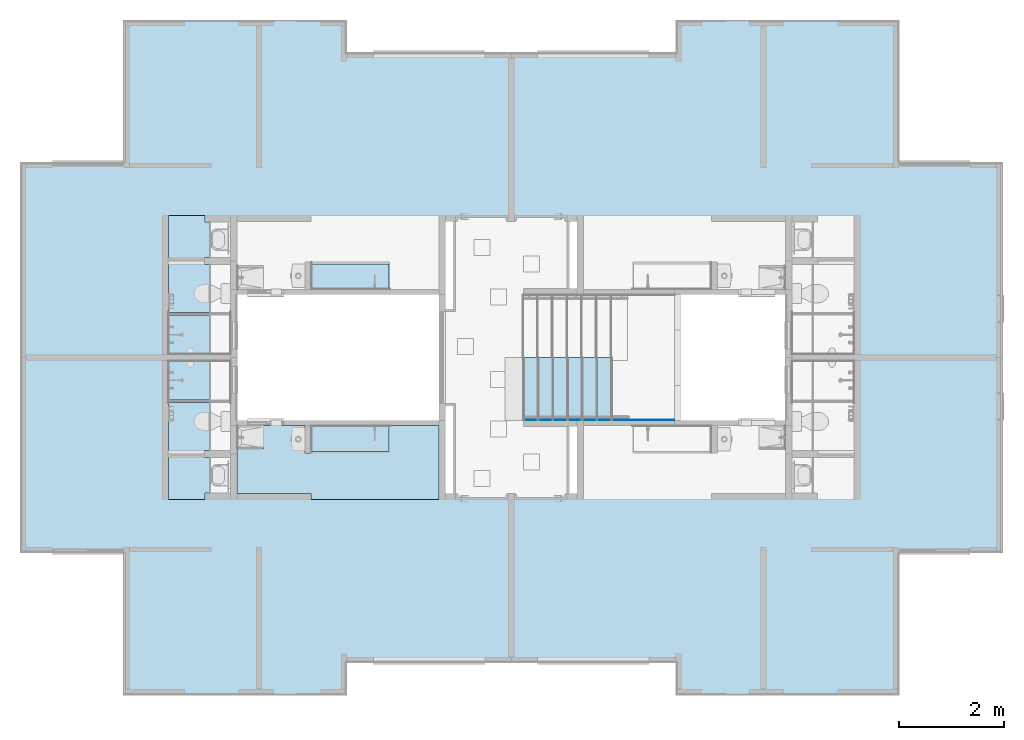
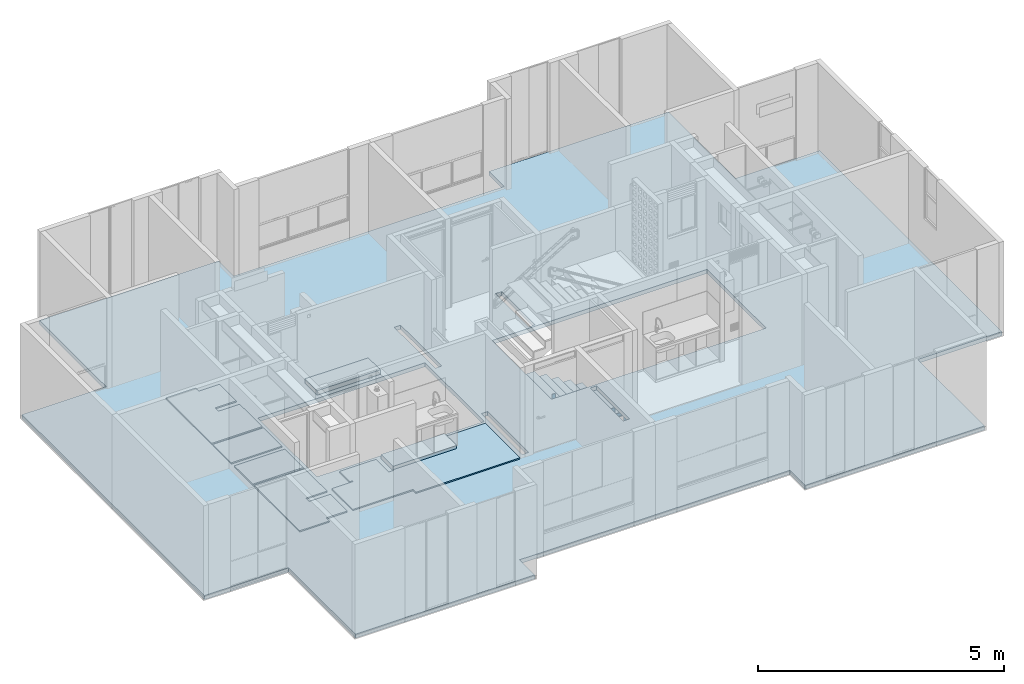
# One storey, part 1 of 48: 13 slabs.
"""IFC4 building model written with IfcOpenShell, lengths in metres."""

from ifc_helpers import new_model, entity, si_unit, converted_unit, derived_unit, direction, frame, origin, place, context, subcontext, project, spatial, indexed_curve, outline, extrude, material, constituent, constituent_set, type_object, element, save


model = new_model("IFC4")

# Units and contexts
model_context = context("Model", 3, precision=1e-05, world=origin(), true_north=direction((6.123031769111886e-17, 1.0)))
body_context = subcontext(model_context, "Body", "Model", "MODEL_VIEW")
ifc_project = project(units=[si_unit("LENGTHUNIT", "METRE"), si_unit("AREAUNIT", "SQUARE_METRE"), si_unit("VOLUMEUNIT", "CUBIC_METRE"), converted_unit("PLANEANGLEUNIT", "DEGREE", entity("IfcRatioMeasure", 0.017453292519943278), si_unit("PLANEANGLEUNIT", "RADIAN"), dimensions=[0, 0, 0, 0, 0, 0, 0]), si_unit("MASSUNIT", "GRAM", prefix="KILO"), derived_unit("MASSDENSITYUNIT", [(si_unit("MASSUNIT", "GRAM", prefix="KILO"), 1), (si_unit("LENGTHUNIT", "METRE"), -3)]), derived_unit("IONCONCENTRATIONUNIT", [(si_unit("MASSUNIT", "GRAM", prefix="KILO"), 1), (si_unit("LENGTHUNIT", "METRE"), -3)]), derived_unit("MOMENTOFINERTIAUNIT", [(si_unit("LENGTHUNIT", "METRE"), 4)]), si_unit("TIMEUNIT", "SECOND"), si_unit("FREQUENCYUNIT", "HERTZ"), si_unit("THERMODYNAMICTEMPERATUREUNIT", "DEGREE_CELSIUS"), derived_unit("THERMALTRANSMITTANCEUNIT", [(si_unit("MASSUNIT", "GRAM", prefix="KILO"), 1), (si_unit("THERMODYNAMICTEMPERATUREUNIT", "KELVIN"), -1), (si_unit("TIMEUNIT", "SECOND"), -3)]), derived_unit("THERMALCONDUCTANCEUNIT", [(si_unit("MASSUNIT", "GRAM", prefix="KILO"), 1), (si_unit("THERMODYNAMICTEMPERATUREUNIT", "KELVIN"), -1), (si_unit("TIMEUNIT", "SECOND"), -3), (si_unit("LENGTHUNIT", "METRE"), 1)]), derived_unit("VOLUMETRICFLOWRATEUNIT", [(si_unit("LENGTHUNIT", "METRE"), 3), (si_unit("TIMEUNIT", "SECOND"), -1)]), derived_unit("MASSFLOWRATEUNIT", [(si_unit("MASSUNIT", "GRAM", prefix="KILO"), 1), (si_unit("TIMEUNIT", "SECOND"), -1)]), derived_unit("ROTATIONALFREQUENCYUNIT", [(si_unit("TIMEUNIT", "SECOND"), -1)]), si_unit("ELECTRICCURRENTUNIT", "AMPERE"), si_unit("ELECTRICVOLTAGEUNIT", "VOLT"), si_unit("POWERUNIT", "WATT"), si_unit("FORCEUNIT", "NEWTON", prefix="KILO"), si_unit("ILLUMINANCEUNIT", "LUX"), si_unit("LUMINOUSFLUXUNIT", "LUMEN"), si_unit("LUMINOUSINTENSITYUNIT", "CANDELA"), derived_unit("USERDEFINED", [(si_unit("MASSUNIT", "GRAM", prefix="KILO"), -1), (si_unit("LENGTHUNIT", "METRE"), -2), (si_unit("TIMEUNIT", "SECOND"), 3), (si_unit("LUMINOUSFLUXUNIT", "LUMEN"), 1)]), derived_unit("USERDEFINED", [(si_unit("MASSUNIT", "GRAM", prefix="KILO"), 1), (si_unit("TIMEUNIT", "SECOND"), -3), (si_unit("LENGTHUNIT", "METRE"), 3), (si_unit("ELECTRICCURRENTUNIT", "AMPERE"), -2)]), derived_unit("SOUNDPOWERUNIT", [(si_unit("MASSUNIT", "GRAM", prefix="KILO"), 1), (si_unit("TIMEUNIT", "SECOND"), -3), (si_unit("LENGTHUNIT", "METRE"), 2)]), derived_unit("SOUNDPRESSUREUNIT", [(si_unit("MASSUNIT", "GRAM", prefix="KILO"), 1), (si_unit("LENGTHUNIT", "METRE"), -1), (si_unit("TIMEUNIT", "SECOND"), -2)]), derived_unit("LINEARVELOCITYUNIT", [(si_unit("LENGTHUNIT", "METRE"), 1), (si_unit("TIMEUNIT", "SECOND"), -1)]), si_unit("PRESSUREUNIT", "PASCAL"), derived_unit("USERDEFINED", [(si_unit("MASSUNIT", "GRAM", prefix="KILO"), 1), (si_unit("LENGTHUNIT", "METRE"), -2), (si_unit("TIMEUNIT", "SECOND"), -2)]), derived_unit("LINEARFORCEUNIT", [(si_unit("MASSUNIT", "GRAM", prefix="KILO"), 1), (si_unit("TIMEUNIT", "SECOND"), -2)]), derived_unit("PLANARFORCEUNIT", [(si_unit("MASSUNIT", "GRAM", prefix="KILO"), 1), (si_unit("LENGTHUNIT", "METRE"), -1), (si_unit("TIMEUNIT", "SECOND"), -2)]), derived_unit("SPECIFICHEATCAPACITYUNIT", [(si_unit("THERMODYNAMICTEMPERATUREUNIT", "KELVIN"), -1), (si_unit("LENGTHUNIT", "METRE"), 2), (si_unit("TIMEUNIT", "SECOND"), -2)]), derived_unit("HEATINGVALUEUNIT", [(si_unit("LENGTHUNIT", "METRE"), 2), (si_unit("TIMEUNIT", "SECOND"), -2)]), derived_unit("VAPORPERMEABILITYUNIT", [(si_unit("LENGTHUNIT", "METRE"), -1), (si_unit("TIMEUNIT", "SECOND"), 1)]), derived_unit("DYNAMICVISCOSITYUNIT", [(si_unit("MASSUNIT", "GRAM", prefix="KILO"), 1), (si_unit("TIMEUNIT", "SECOND"), -1), (si_unit("LENGTHUNIT", "METRE"), -1)]), derived_unit("THERMALEXPANSIONCOEFFICIENTUNIT", [(si_unit("THERMODYNAMICTEMPERATUREUNIT", "KELVIN"), -1)]), derived_unit("MODULUSOFELASTICITYUNIT", [(si_unit("MASSUNIT", "GRAM", prefix="KILO"), 1), (si_unit("LENGTHUNIT", "METRE"), -1), (si_unit("TIMEUNIT", "SECOND"), -2)]), derived_unit("ISOTHERMALMOISTURECAPACITYUNIT", [(si_unit("LENGTHUNIT", "METRE"), 3), (si_unit("MASSUNIT", "GRAM", prefix="KILO"), -1)]), derived_unit("MOISTUREDIFFUSIVITYUNIT", [(si_unit("TIMEUNIT", "SECOND"), -1), (si_unit("LENGTHUNIT", "METRE"), 2)])], contexts=[model_context])

# Site, building, storey
site_placement = place(None, origin())
site = spatial("IfcSite", under=ifc_project, at=site_placement, Name="Default", CompositionType="ELEMENT")
building_placement = place(site_placement, origin())
building = spatial("IfcBuilding", under=site, at=building_placement, CompositionType="ELEMENT")
storey_placement = place(building_placement, frame((0.0, 0.0, 9.40000000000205)))
storey = spatial("IfcBuildingStorey", under=building, at=storey_placement, Name="Nivel 5", CompositionType="ELEMENT", Elevation=9.40000000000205)

# Slabs
ifc_material_1 = material(Name="Ceramica 0.45m x 0.45m gris", Category="Materials")
ifc_constituent_1 = constituent(ifc_material_1, Name="Ceramica 0.45m x 0.45m gris", Category="Materials")
ifc_material_2 = material(Name="Mortero de pega", Category="Materials")
ifc_constituent_2 = constituent(ifc_material_2, Name="Mortero de pega", Category="Materials")
ifc_constituent_set_1 = constituent_set(constituents=[ifc_constituent_1, ifc_constituent_2], Name="Floor:C2030.20 - 0.45 x 0.45 - Enchape cerámico - Mortero de Pega + Cerámica gris")
slab_type_1 = type_object("IfcSlabType", Name="Floor:C2030.20 - 0.45 x 0.45 - Enchape cerámico - Mortero de Pega + Cerámica gris", PredefinedType="FLOOR", material=ifc_constituent_set_1)
slab_1_placement = place(storey_placement, origin())
element("IfcSlab", 1, at=slab_1_placement, inside=storey, type_object=slab_type_1, material=ifc_constituent_set_1, Name="Floor:C2030.20 - 0.45 x 0.45 - Enchape cerámico - Mortero de Pega + Cerámica gris", ObjectType="Floor:C2030.20 - 0.45 x 0.45 - Enchape cerámico - Mortero de Pega + Cerámica gris", PredefinedType="FLOOR", context=body_context, shape_type="SweptSolid", body=[
    extrude(outline(indexed_curve([(-0.592499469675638, -0.3749999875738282), (0.5924994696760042, -0.3749999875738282), (0.5924994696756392, 0.3749999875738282), (-0.5924994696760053, 0.3749999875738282), (-0.592499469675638, -0.3749999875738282)], self_intersect=False)), frame((3.3700005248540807, -5.990000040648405, 0.019999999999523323), z_axis=(0.0, 0.0, 1.0), x_axis=(-1.0, 0.0, 0.0)), (0.0, 0.0, 1.0), 0.009999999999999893),
    extrude(outline(indexed_curve([(-0.1950000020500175, -0.06099936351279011), (-0.19500000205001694, 0.4339995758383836), (-1.109999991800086, 0.43399957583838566), (-1.109999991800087, -0.7509993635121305), (0.7449999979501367, -0.750999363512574), (0.7449999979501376, -0.05600042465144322), (0.6199999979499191, -0.05600042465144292), (0.619999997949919, 0.4339995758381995), (-0.060000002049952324, 0.4339995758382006), (-0.060000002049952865, -0.06099936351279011), (-0.1950000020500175, -0.06099936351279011)], self_intersect=False)), frame((3.5285004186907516, -4.455000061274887, 0.019999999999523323), z_axis=(0.0, 0.0, -1.0), x_axis=(0.0, 1.0, 0.0)), (0.0, 0.0, -1.0), 0.009999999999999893),
    extrude(outline(indexed_curve([(-0.7509993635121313, -1.1099999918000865), (0.4339995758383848, -1.1099999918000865), (0.4339995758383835, -0.19500000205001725), (-0.06099936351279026, -0.1950000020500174), (-0.06099936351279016, -0.06000000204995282), (0.4339995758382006, -0.06000000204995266), (0.4339995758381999, 0.6199999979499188), (-0.05600042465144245, 0.6199999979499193), (-0.05600042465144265, 0.7449999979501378), (-0.750999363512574, 0.7449999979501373), (-0.7509993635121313, -1.1099999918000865)], self_intersect=False)), frame((3.5285004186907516, -4.455000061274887, 0.0)), (0.0, 0.0, 1.0), 0.019999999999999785),
    extrude(outline(indexed_curve([(-0.37499998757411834, -0.5924994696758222), (0.37499998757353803, -0.5924994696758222), (0.37499998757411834, 0.59249946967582), (-0.37499998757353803, 0.5924994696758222), (-0.37499998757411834, -0.5924994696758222)], self_intersect=False)), frame((3.37000052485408, -5.990000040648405, 0.0), z_axis=(0.0, 0.0, 1.0), x_axis=(0.0, 1.0, 0.0)), (0.0, 0.0, 1.0), 0.019999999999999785),
])
slab_2_placement = place(storey_placement, origin())
element("IfcSlab", 2, at=slab_2_placement, inside=storey, type_object=slab_type_1, material=ifc_constituent_set_1, Name="Floor:C2030.20 - 0.45 x 0.45 - Enchape cerámico - Mortero de Pega + Cerámica gris", ObjectType="Floor:C2030.20 - 0.45 x 0.45 - Enchape cerámico - Mortero de Pega + Cerámica gris", PredefinedType="FLOOR", context=body_context, shape_type="SweptSolid", body=[
    extrude(outline(indexed_curve([(-0.5924994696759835, -0.3749999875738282), (0.5924994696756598, -0.3749999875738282), (0.592499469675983, 0.3749999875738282), (-0.5924994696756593, 0.3749999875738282), (-0.5924994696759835, -0.3749999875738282)], self_intersect=False)), frame((3.3700005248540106, -6.860000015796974, 0.019999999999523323), z_axis=(0.0, 0.0, 1.0), x_axis=(-1.0, 0.0, 0.0)), (0.0, 0.0, 1.0), 0.009999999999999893),
    extrude(outline(indexed_curve([(0.19500000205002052, -0.4339995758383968), (1.1099999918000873, -0.4339995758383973), (1.109999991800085, 0.7509993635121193), (-0.7449999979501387, 0.750999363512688), (-0.7449999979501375, 0.05600042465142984), (-0.619999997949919, 0.05600042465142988), (-0.6199999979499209, -0.43399957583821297), (0.0600000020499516, -0.4339995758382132), (0.060000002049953, 0.060999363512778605), (0.19500000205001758, 0.06099936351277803), (0.19500000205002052, -0.4339995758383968)], self_intersect=False)), frame((3.528500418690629, -8.394999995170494, 0.019999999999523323), z_axis=(0.0, 0.0, 1.0), x_axis=(0.0, 1.0, 0.0)), (0.0, 0.0, 1.0), 0.009999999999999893),
    extrude(outline(indexed_curve([(-1.1099999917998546, -0.7509993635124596), (0.744999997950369, -0.7509993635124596), (0.7449999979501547, -0.05600042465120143), (0.6199999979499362, -0.056000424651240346), (0.6199999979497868, 0.4339995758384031), (-0.060000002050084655, 0.4339995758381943), (-0.06000000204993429, -0.06099936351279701), (-0.19500000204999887, -0.060999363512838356), (-0.19500000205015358, 0.43399957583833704), (-1.1099999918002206, 0.43399957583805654), (-1.1099999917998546, -0.7509993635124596)], self_intersect=False)), frame((3.528500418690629, -8.394999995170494, 0.0), z_axis=(0.0, 0.0, 1.0), x_axis=(0.0, -1.0, 0.0)), (0.0, 0.0, 1.0), 0.019999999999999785),
    extrude(outline(indexed_curve([(-0.5924994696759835, -0.3749999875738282), (0.5924994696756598, -0.3749999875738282), (0.5924994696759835, 0.3749999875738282), (-0.5924994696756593, 0.3749999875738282), (-0.5924994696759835, -0.3749999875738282)], self_intersect=False)), frame((3.3700005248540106, -6.860000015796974, 0.0), z_axis=(0.0, 0.0, 1.0), x_axis=(-1.0, 0.0, 0.0)), (0.0, 0.0, 1.0), 0.019999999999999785),
])
slab_3_placement = place(storey_placement, origin())
element("IfcSlab", 3, at=slab_3_placement, inside=storey, type_object=slab_type_1, material=ifc_constituent_set_1, Name="Floor:C2030.20 - 0.45 x 0.45 - Enchape cerámico - Mortero de Pega + Cerámica gris", ObjectType="Floor:C2030.20 - 0.45 x 0.45 - Enchape cerámico - Mortero de Pega + Cerámica gris", PredefinedType="FLOOR", context=body_context, shape_type="SweptSolid", body=[
    extrude(outline(indexed_curve([(-0.06375012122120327, -0.8409999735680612), (2.381249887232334, -0.8409999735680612), (2.3812498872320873, 0.5734999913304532), (1.4212498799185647, 0.5734999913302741), (1.4212498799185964, 0.083999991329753), (-0.06375012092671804, 0.08399999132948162), (-0.06375012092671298, 0.05399999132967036), (-0.17875012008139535, 0.053999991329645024), (-0.1787501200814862, 0.573499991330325), (-1.038749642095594, 0.5734999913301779), (-1.0387496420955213, 0.1579999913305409), (-0.9787496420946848, 0.15799999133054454), (-0.9787496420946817, 0.12399999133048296), (-1.4787501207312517, 0.12399999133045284), (-1.4787501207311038, -0.7259999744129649), (-0.06375012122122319, -0.725999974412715), (-0.06375012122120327, -0.8409999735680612)], self_intersect=False)), frame((5.566250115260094, -8.299000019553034, 0.019999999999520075)), (0.0, 0.0, 1.0), 0.009999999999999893),
    extrude(outline(indexed_curve([(-0.06375012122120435, -0.8409999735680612), (2.381249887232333, -0.8409999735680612), (2.3812498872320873, 0.5734999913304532), (1.4212498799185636, 0.5734999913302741), (1.4212498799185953, 0.083999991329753), (-0.06375012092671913, 0.08399999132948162), (-0.06375012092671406, 0.05399999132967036), (-0.17875012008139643, 0.053999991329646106), (-0.17875012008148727, 0.573499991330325), (-1.038749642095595, 0.5734999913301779), (-1.038749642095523, 0.1579999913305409), (-0.978749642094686, 0.15799999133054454), (-0.9787496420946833, 0.12399999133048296), (-1.4787501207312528, 0.12399999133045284), (-1.478750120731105, -0.7259999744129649), (-0.06375012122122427, -0.725999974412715), (-0.06375012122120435, -0.8409999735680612)], self_intersect=False)), frame((5.566250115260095, -8.299000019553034, 0.0)), (0.0, 0.0, 1.0), 0.019999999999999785),
])
ifc_material_3 = material(Name="Concreto (Aire)", Category="Materials")
slab_type_2 = type_object("IfcSlabType", Name="Floor:B1010 - 0.10m - Placa Entrepiso - Concreto", PredefinedType="FLOOR", material=ifc_material_3)
slab_4_placement = place(storey_placement, origin())
element("IfcSlab", 4, at=slab_4_placement, inside=storey, type_object=slab_type_2, material=ifc_material_3, Name="Floor:B1010 - 0.10m - Placa Entrepiso - Concreto", ObjectType="Floor:B1010 - 0.10m - Placa Entrepiso - Concreto", PredefinedType="FLOOR", context=body_context, shape_type="SweptSolid", body=[
    extrude(outline(indexed_curve([(-7.375000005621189, -6.415000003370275), (-3.170000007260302, -6.415000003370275), (-3.170000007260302, -5.8000000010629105), (3.1700000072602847, -5.8000000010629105), (3.1700000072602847, -6.415000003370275), (7.3750000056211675, -6.415000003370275), (7.3750000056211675, -3.6999999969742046), (9.350000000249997, -3.699999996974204), (9.350000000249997, 3.6999999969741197), (7.375000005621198, 3.6999999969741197), (7.375000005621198, 6.415000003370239), (3.1700000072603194, 6.415000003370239), (3.1700000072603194, 5.800000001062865), (-3.170000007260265, 5.800000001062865), (-3.170000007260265, 6.415000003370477), (-7.375000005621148, 6.415000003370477), (-7.375000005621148, 3.6999999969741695), (-9.350000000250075, 3.6999999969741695), (-9.350000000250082, -3.6999999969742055), (-7.375000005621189, -3.6999999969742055), (-7.375000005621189, -6.415000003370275)], self_intersect=False), holes=[indexed_curve([(-5.2650000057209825, -1.2000000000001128), (-5.2650000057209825, 1.199999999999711), (-3.2596199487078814, 1.199999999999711), (-0.23000000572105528, 1.1999999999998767), (-0.23000000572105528, -1.2000000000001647), (-3.3965361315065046, -1.2000000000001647), (-5.2650000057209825, -1.2000000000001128)], self_intersect=False), indexed_curve([(5.265000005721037, -1.2000000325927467), (1.3449999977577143, -1.2000000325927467), (1.3449999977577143, 1.2000000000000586), (5.265000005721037, 1.2000000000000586), (5.265000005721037, -1.2000000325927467)], self_intersect=False), indexed_curve([(-1.2599999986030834, -2.5999999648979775), (-1.2599999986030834, -1.250000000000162), (-1.1099999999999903, -1.250000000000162), (-1.1099999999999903, -2.5999999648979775), (-1.2599999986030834, -2.5999999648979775)], self_intersect=False), indexed_curve([(-1.2599999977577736, 1.2500000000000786), (-1.2599999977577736, 2.599999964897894), (-1.1099999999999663, 2.599999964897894), (-1.1099999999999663, 1.2500000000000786), (-1.2599999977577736, 1.2500000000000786)], self_intersect=False), indexed_curve([(1.2599999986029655, 0.9299999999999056), (1.1100000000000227, 0.9299999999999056), (1.1100000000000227, 2.5999999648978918), (1.2599999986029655, 2.5999999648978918), (1.2599999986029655, 0.9299999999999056)], self_intersect=False), indexed_curve([(1.110000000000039, -2.5999999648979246), (1.110000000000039, -0.9299999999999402), (1.2599999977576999, -0.9299999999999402), (1.2599999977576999, -2.5999999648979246), (1.110000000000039, -2.5999999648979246)], self_intersect=False)]), frame((9.322500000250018, -6.425000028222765, -0.10000000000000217), z_axis=(0.0, 0.0, 1.0), x_axis=(-1.0, 0.0, 0.0)), (0.0, 0.0, 1.0), 0.1),
])
ifc_material_4 = material(Name="escalgres", Category="Materials")
ifc_constituent_3 = constituent(ifc_material_4, Name="escalgres", Category="Materials")
ifc_constituent_4 = constituent(ifc_material_2, Name="Mortero de pega", Category="Materials")
ifc_constituent_set_2 = constituent_set(constituents=[ifc_constituent_3, ifc_constituent_4], Name="Floor:C2030.20 -30x30- Escalgres - Gres")
slab_type_3 = type_object("IfcSlabType", Name="Floor:C2030.20 -30x30- Escalgres - Gres", PredefinedType="FLOOR", material=ifc_constituent_set_2)
slab_5_placement = place(storey_placement, origin())
element("IfcSlab", 5, at=slab_5_placement, inside=storey, type_object=slab_type_3, material=ifc_constituent_set_2, Name="Floor:C2030.20 -30x30- Escalgres - Gres", ObjectType="Floor:C2030.20 -30x30- Escalgres - Gres", PredefinedType="FLOOR", context=body_context, shape_type="SweptSolid", body=[
    extrude(outline(indexed_curve([(-0.1475000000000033, -0.6000000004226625), (0.14750000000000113, -0.6000000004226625), (0.14750000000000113, 0.6000000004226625), (-0.1475000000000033, 0.6000000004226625), (-0.1475000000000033, -0.6000000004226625)], self_intersect=False)), frame((11.10000000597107, -7.025000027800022, -0.987142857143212)), (0.0, 0.0, 1.0), 0.009999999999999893),
    extrude(outline(indexed_curve([(-0.6000000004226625, -0.1475000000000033), (0.6000000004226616, -0.1475000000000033), (0.6000000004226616, 0.14750000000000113), (-0.6000000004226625, 0.14750000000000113), (-0.6000000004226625, -0.1475000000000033)], self_intersect=False)), frame((11.10000000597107, -7.025000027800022, -1.007142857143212), z_axis=(0.0, 0.0, 1.0), x_axis=(0.0, -1.0, 0.0)), (0.0, 0.0, 1.0), 0.019999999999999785),
])
slab_6_placement = place(storey_placement, origin())
element("IfcSlab", 6, at=slab_6_placement, inside=storey, type_object=slab_type_3, material=ifc_constituent_set_2, Name="Floor:C2030.20 -30x30- Escalgres - Gres", ObjectType="Floor:C2030.20 -30x30- Escalgres - Gres", PredefinedType="FLOOR", context=body_context, shape_type="SweptSolid", body=[
    extrude(outline(indexed_curve([(-0.1475000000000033, -0.6000000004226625), (0.14750000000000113, -0.6000000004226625), (0.14750000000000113, 0.6000000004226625), (-0.1475000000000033, 0.6000000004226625), (-0.1475000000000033, -0.6000000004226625)], self_intersect=False)), frame((10.820000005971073, -7.025000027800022, -0.8192857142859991)), (0.0, 0.0, 1.0), 0.009999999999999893),
    extrude(outline(indexed_curve([(-0.6000000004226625, -0.1475000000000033), (0.6000000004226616, -0.1475000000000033), (0.6000000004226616, 0.14750000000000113), (-0.6000000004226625, 0.14750000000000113), (-0.6000000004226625, -0.1475000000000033)], self_intersect=False)), frame((10.820000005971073, -7.025000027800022, -0.8392857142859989), z_axis=(0.0, 0.0, 1.0), x_axis=(0.0, -1.0, 0.0)), (0.0, 0.0, 1.0), 0.019999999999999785),
])
slab_7_placement = place(storey_placement, origin())
element("IfcSlab", 7, at=slab_7_placement, inside=storey, type_object=slab_type_3, material=ifc_constituent_set_2, Name="Floor:C2030.20 -30x30- Escalgres - Gres", ObjectType="Floor:C2030.20 -30x30- Escalgres - Gres", PredefinedType="FLOOR", context=body_context, shape_type="SweptSolid", body=[
    extrude(outline(indexed_curve([(-0.1475000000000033, -0.6000000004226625), (0.14750000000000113, -0.6000000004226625), (0.14750000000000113, 0.6000000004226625), (-0.1475000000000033, 0.6000000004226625), (-0.1475000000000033, -0.6000000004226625)], self_intersect=False)), frame((10.540000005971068, -7.025000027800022, -0.6514285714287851)), (0.0, 0.0, 1.0), 0.009999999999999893),
    extrude(outline(indexed_curve([(-0.6000000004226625, -0.1475000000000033), (0.6000000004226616, -0.1475000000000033), (0.6000000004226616, 0.14750000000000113), (-0.6000000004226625, 0.14750000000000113), (-0.6000000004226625, -0.1475000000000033)], self_intersect=False)), frame((10.540000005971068, -7.025000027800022, -0.6714285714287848), z_axis=(0.0, 0.0, 1.0), x_axis=(0.0, -1.0, 0.0)), (0.0, 0.0, 1.0), 0.019999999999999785),
])
slab_8_placement = place(storey_placement, origin())
element("IfcSlab", 8, at=slab_8_placement, inside=storey, type_object=slab_type_3, material=ifc_constituent_set_2, Name="Floor:C2030.20 -30x30- Escalgres - Gres", ObjectType="Floor:C2030.20 -30x30- Escalgres - Gres", PredefinedType="FLOOR", context=body_context, shape_type="SweptSolid", body=[
    extrude(outline(indexed_curve([(-0.1475000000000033, -0.6000000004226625), (0.14750000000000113, -0.6000000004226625), (0.14750000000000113, 0.6000000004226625), (-0.1475000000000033, 0.6000000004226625), (-0.1475000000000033, -0.6000000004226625)], self_intersect=False)), frame((10.26000000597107, -7.025000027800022, -0.4835714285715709)), (0.0, 0.0, 1.0), 0.009999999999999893),
    extrude(outline(indexed_curve([(-0.6000000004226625, -0.1475000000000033), (0.6000000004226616, -0.1475000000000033), (0.6000000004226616, 0.14750000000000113), (-0.6000000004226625, 0.14750000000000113), (-0.6000000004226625, -0.1475000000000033)], self_intersect=False)), frame((10.26000000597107, -7.025000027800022, -0.5035714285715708), z_axis=(0.0, 0.0, 1.0), x_axis=(0.0, -1.0, 0.0)), (0.0, 0.0, 1.0), 0.019999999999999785),
])
slab_9_placement = place(storey_placement, origin())
element("IfcSlab", 9, at=slab_9_placement, inside=storey, type_object=slab_type_3, material=ifc_constituent_set_2, Name="Floor:C2030.20 -30x30- Escalgres - Gres", ObjectType="Floor:C2030.20 -30x30- Escalgres - Gres", PredefinedType="FLOOR", context=body_context, shape_type="SweptSolid", body=[
    extrude(outline(indexed_curve([(-0.1475000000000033, -0.6000000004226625), (0.14750000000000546, -0.6000000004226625), (0.14750000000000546, 0.6000000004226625), (-0.1475000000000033, 0.6000000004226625), (-0.1475000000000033, -0.6000000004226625)], self_intersect=False)), frame((9.98000000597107, -7.025000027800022, -0.31571428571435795)), (0.0, 0.0, 1.0), 0.009999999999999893),
    extrude(outline(indexed_curve([(-0.6000000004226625, -0.1475000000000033), (0.6000000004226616, -0.1475000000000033), (0.6000000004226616, 0.14750000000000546), (-0.6000000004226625, 0.14750000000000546), (-0.6000000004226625, -0.1475000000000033)], self_intersect=False)), frame((9.98000000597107, -7.025000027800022, -0.33571428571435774), z_axis=(0.0, 0.0, 1.0), x_axis=(0.0, -1.0, 0.0)), (0.0, 0.0, 1.0), 0.019999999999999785),
])
slab_10_placement = place(storey_placement, origin())
element("IfcSlab", 10, at=slab_10_placement, inside=storey, type_object=slab_type_3, material=ifc_constituent_set_2, Name="Floor:C2030.20 -30x30- Escalgres - Gres", ObjectType="Floor:C2030.20 -30x30- Escalgres - Gres", PredefinedType="FLOOR", context=body_context, shape_type="SweptSolid", body=[
    extrude(outline(indexed_curve([(-0.1475000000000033, -0.6000000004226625), (0.1475000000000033, -0.6000000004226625), (0.1475000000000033, 0.6000000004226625), (-0.1475000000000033, 0.6000000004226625), (-0.1475000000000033, -0.6000000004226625)], self_intersect=False)), frame((9.70000000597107, -7.025000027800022, -0.1478571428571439)), (0.0, 0.0, 1.0), 0.009999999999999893),
    extrude(outline(indexed_curve([(-0.6000000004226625, -0.1475000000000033), (0.6000000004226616, -0.1475000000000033), (0.6000000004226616, 0.1475000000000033), (-0.6000000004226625, 0.1475000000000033), (-0.6000000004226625, -0.1475000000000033)], self_intersect=False)), frame((9.70000000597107, -7.025000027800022, -0.16785714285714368), z_axis=(0.0, 0.0, 1.0), x_axis=(0.0, -1.0, 0.0)), (0.0, 0.0, 1.0), 0.019999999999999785),
])
slab_type_4 = type_object("IfcSlabType", Name="Floor:B1010 - 0.10m - Poyo - Concreto", PredefinedType="FLOOR", material=ifc_material_3)
slab_11_placement = place(storey_placement, origin())
element("IfcSlab", 11, at=slab_11_placement, inside=storey, type_object=slab_type_4, material=ifc_material_3, Name="Floor:B1010 - 0.10m - Poyo - Concreto", ObjectType="Floor:B1010 - 0.10m - Poyo - Concreto", PredefinedType="FLOOR", context=body_context, shape_type="SweptSolid", body=[
    extrude(outline(indexed_curve([(-0.24475000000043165, -0.7425000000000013), (0.2447500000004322, -0.7425000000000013), (0.2447500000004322, 0.7425000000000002), (-0.24475000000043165, 0.7425000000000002), (-0.24475000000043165, -0.7425000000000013)], self_intersect=False)), frame((6.2449999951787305, -4.879750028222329, 0.10999999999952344), z_axis=(0.0, 0.0, -1.0), x_axis=(0.0, 1.0, 0.0)), (0.0, 0.0, 1.0), 0.1099999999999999),
])
slab_12_placement = place(storey_placement, origin())
element("IfcSlab", 12, at=slab_12_placement, inside=storey, type_object=slab_type_4, material=ifc_material_3, Name="Floor:B1010 - 0.10m - Poyo - Concreto", ObjectType="Floor:B1010 - 0.10m - Poyo - Concreto", PredefinedType="FLOOR", context=body_context, shape_type="SweptSolid", body=[
    extrude(outline(indexed_curve([(-0.2447500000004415, -0.7425000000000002), (0.2447500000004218, -0.7425000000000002), (0.2447500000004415, 0.7425000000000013), (-0.2447500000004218, 0.7425000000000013), (-0.2447500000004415, -0.7425000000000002)], self_intersect=False)), frame((6.24499999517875, -7.970250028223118, 0.10999999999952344), z_axis=(0.0, 0.0, -1.0), x_axis=(0.0, 1.0, 0.0)), (0.0, 0.0, 1.0), 0.1099999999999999),
])
ifc_material_5 = material(Name="PISO GRES SAHARA 30X30 guardaescoba sin hatch", Category="Materials")
slab_type_5 = type_object("IfcSlabType", Name="Floors 6:Floors 2", PredefinedType="FLOOR", material=ifc_material_5)
slab_13_placement = place(storey_placement, origin())
element("IfcSlab", 13, at=slab_13_placement, inside=storey, type_object=slab_type_5, Name="Floors 6:Floors 2", ObjectType="Floors 6:Floors 2", PredefinedType="FLOOR", context=body_context, shape_type="SweptSolid", body=[
    extrude(outline(indexed_curve([(-1.8526666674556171, -0.5909921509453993), (-0.6676666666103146, -0.5909921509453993), (-0.6676666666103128, -0.4231350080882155), (-0.3876666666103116, -0.42313500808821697), (-0.38766666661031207, -0.2552778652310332), (-0.10766666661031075, -0.25527786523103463), (-0.10766666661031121, -0.08742072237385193), (0.17233333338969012, -0.08742072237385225), (0.17233333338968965, 0.08043642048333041), (0.4523333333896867, 0.08043642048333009), (0.45233333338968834, 0.24829356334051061), (0.7323333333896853, 0.24829356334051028), (0.732333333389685, 0.41615070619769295), (1.0123333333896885, 0.41615070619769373), (1.0123333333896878, 0.6638901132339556), (0.9323333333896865, 0.6638901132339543), (0.9323333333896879, 0.49615070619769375), (0.6523333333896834, 0.496150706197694), (0.6523333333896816, 0.3282935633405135), (0.37233333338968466, 0.32829356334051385), (0.37233333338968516, 0.16043642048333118), (0.09233333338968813, 0.16043642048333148), (0.09233333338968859, -0.007420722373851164), (-0.18766666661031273, -0.007420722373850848), (-0.18766666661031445, -0.17527786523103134), (-0.4676666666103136, -0.1752778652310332), (-0.4676666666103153, -0.3431350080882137), (-0.7476666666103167, -0.34313500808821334), (-0.7476666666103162, -0.5109921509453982), (-1.8526666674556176, -0.510992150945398), (-1.8526666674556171, -0.5909921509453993)], self_intersect=False)), frame((10.579727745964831, -7.625000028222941, -0.5540078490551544), z_axis=(0.0, 1.0, 0.0), x_axis=(-1.0, 0.0, 0.0)), (0.0, 0.0, 1.0), 0.009999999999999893),
])

save(model, "model.ifc")
